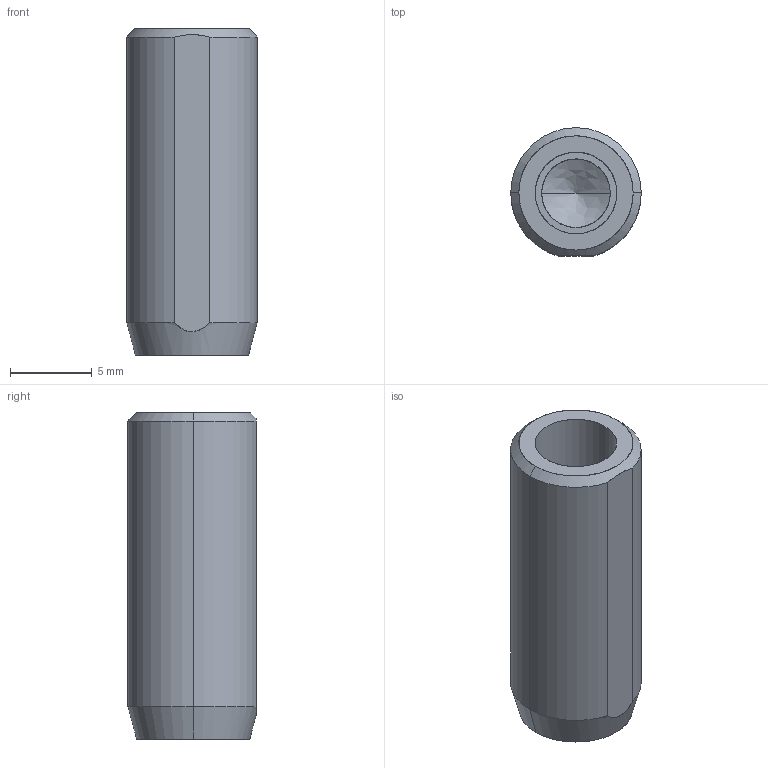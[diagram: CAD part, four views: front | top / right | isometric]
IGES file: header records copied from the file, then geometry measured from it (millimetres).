
Global section: file name: E:\UnigraphicsGraphicData\MISUMI_PRESS-PARTS\IGES\3d_mstm8-20_00431_r00.igs; native system: NX V5.0; preprocessor: UGS NX IGES V5.0; author: MISUMI; date: 20110105.161521; units: millimetre
Bounding box: 8 x 7.85 x 20 mm (x, y, z)
Surface area: 748.2 mm2 (no closed solid volume)
Topology: 0 solids, 0 shells, 17 faces, 100 edges, 98 vertices
Faces by surface type: bspline 17
